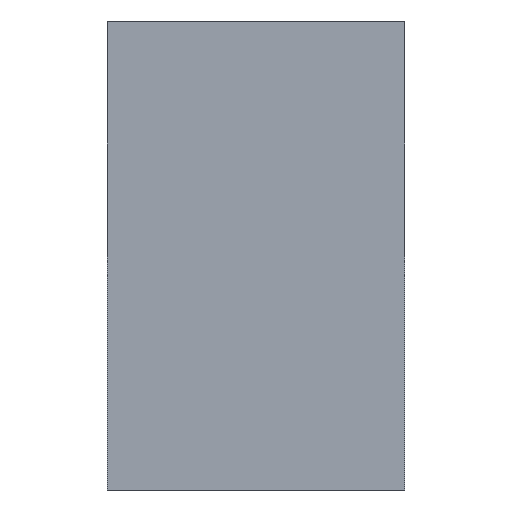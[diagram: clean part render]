
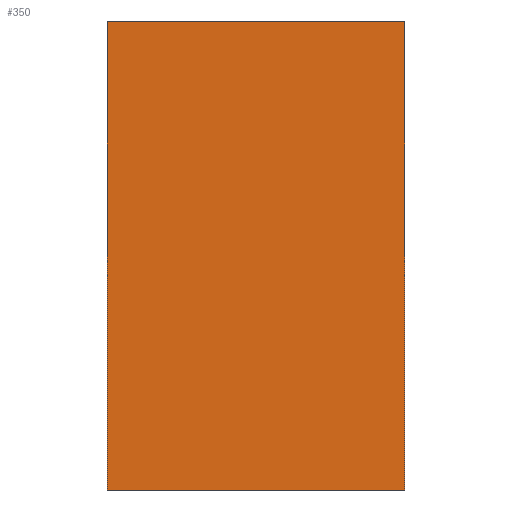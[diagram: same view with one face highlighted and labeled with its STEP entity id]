
A CAD part, left-side view. The second image highlights one B-rep face of the part: STEP entity #350.
In plain terms, the highlighted planar face has unit normal (-1, 0, 0).
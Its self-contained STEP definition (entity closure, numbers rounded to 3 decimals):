
#57=CARTESIAN_POINT('Line Origine',(-25.,14.,0.)) ;
#61=CARTESIAN_POINT('Vertex',(-25.,14.,-11.)) ;
#63=CARTESIAN_POINT('Vertex',(-25.,14.,11.)) ;
#320=CARTESIAN_POINT('Axis2P3D Location',(-25.,0.,-0.)) ;
#325=CARTESIAN_POINT('Line Origine',(-25.,7.,-11.)) ;
#329=CARTESIAN_POINT('Vertex',(-25.,0.,-11.)) ;
#332=CARTESIAN_POINT('Line Origine',(-25.,0.,0.)) ;
#336=CARTESIAN_POINT('Vertex',(-25.,0.,11.)) ;
#339=CARTESIAN_POINT('Line Origine',(-25.,7.,11.)) ;
#58=DIRECTION('Vector Direction',(0.,0.,1.)) ;
#321=DIRECTION('Axis2P3D Direction',(1.,0.,-0.)) ;
#322=DIRECTION('Axis2P3D XDirection',(-0.,0.,-1.)) ;
#326=DIRECTION('Vector Direction',(0.,1.,0.)) ;
#333=DIRECTION('Vector Direction',(0.,0.,-1.)) ;
#340=DIRECTION('Vector Direction',(0.,-1.,0.)) ;
#323=AXIS2_PLACEMENT_3D('Plane Axis2P3D',#320,#321,#322) ;
#345=ORIENTED_EDGE('',*,*,#65,.F.) ;
#346=ORIENTED_EDGE('',*,*,#331,.F.) ;
#347=ORIENTED_EDGE('',*,*,#338,.F.) ;
#348=ORIENTED_EDGE('',*,*,#343,.F.) ;
#59=VECTOR('Line Direction',#58,1.) ;
#327=VECTOR('Line Direction',#326,1.) ;
#334=VECTOR('Line Direction',#333,1.) ;
#341=VECTOR('Line Direction',#340,1.) ;
#350=ADVANCED_FACE('761-014050',(#349),#324,.F.) ;
#65=EDGE_CURVE('',#62,#64,#60,.T.) ;
#331=EDGE_CURVE('',#330,#62,#328,.T.) ;
#338=EDGE_CURVE('',#337,#330,#335,.T.) ;
#343=EDGE_CURVE('',#64,#337,#342,.T.) ;
#344=EDGE_LOOP('',(#345,#346,#347,#348)) ;
#349=FACE_OUTER_BOUND('',#344,.T.) ;
#60=LINE('Line',#57,#59) ;
#328=LINE('Line',#325,#327) ;
#335=LINE('Line',#332,#334) ;
#342=LINE('Line',#339,#341) ;
#324=PLANE('Plane',#323) ;
#62=VERTEX_POINT('',#61) ;
#64=VERTEX_POINT('',#63) ;
#330=VERTEX_POINT('',#329) ;
#337=VERTEX_POINT('',#336) ;
